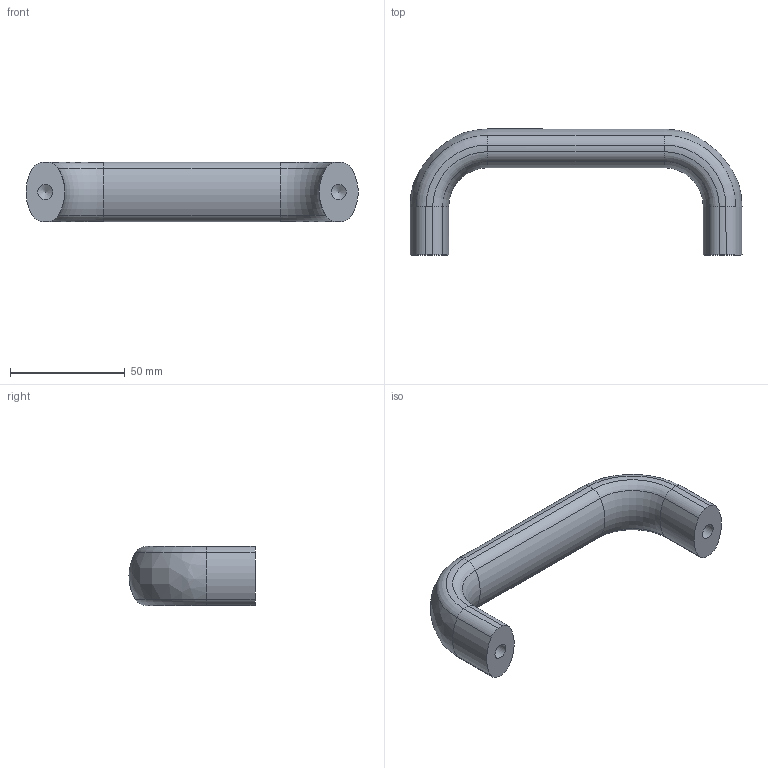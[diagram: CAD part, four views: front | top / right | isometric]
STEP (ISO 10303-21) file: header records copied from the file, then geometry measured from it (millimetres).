
FILE_DESCRIPTION( ( 'STEP AP203' ), '1' );
FILE_NAME( 'C:/Temp/Ganter_Step_05_03_2020/data/1_2/gn_565/Cabinet ''''U'''' handle GN 565-26-128-BL.stp', '2020-03-05T10:08:58', ( 'License CC BY-ND 4.0' ), ( 'CADENAS' ), ' ', 'PARTsolutions', ' ' );
FILE_SCHEMA( ( 'CONFIG_CONTROL_DESIGN' ) );
Length unit declared in the file: millimetre
Products named in the file (1): _Cabinet ''U'' handle GN 565-26-128-BL
Bounding box: 144.88 x 54.99 x 25.99 mm (x, y, z)
Volume: 69989.4 mm3; surface area: 15132.4 mm2
Topology: 1 solids, 1 shells, 52 faces, 130 edges, 80 vertices
Faces by surface type: cylinder 26, torus 14, plane 8, cone 2, bspline 2
Full cylindrical faces by diameter (mm): 6.647 x2
Entity records: 1648 total; most frequent: CARTESIAN_POINT 341, DIRECTION 302, ORIENTED_EDGE 248, AXIS2_PLACEMENT_3D 139, EDGE_CURVE 124, CIRCLE 88, VERTEX_POINT 80, EDGE_LOOP 56
